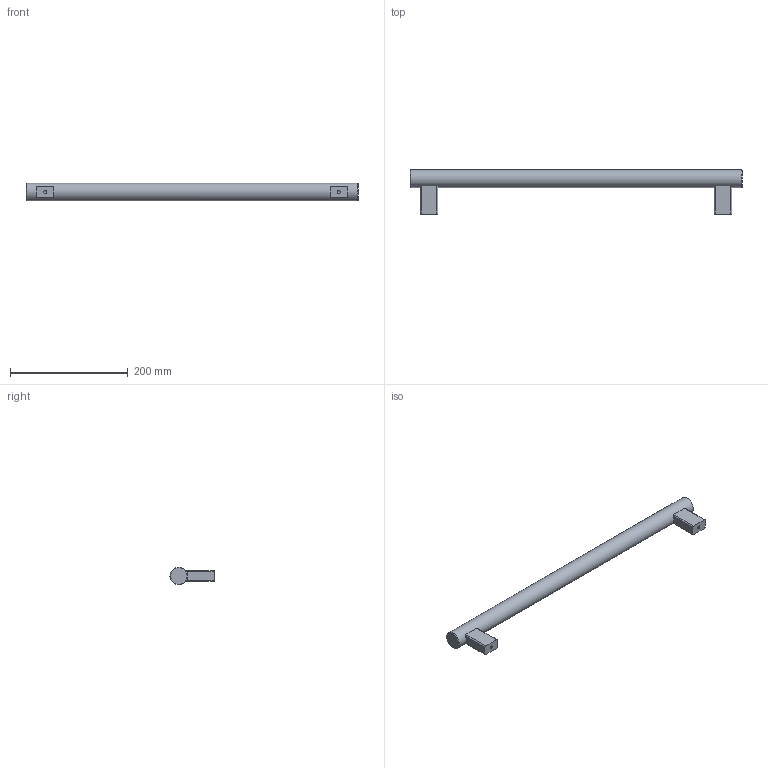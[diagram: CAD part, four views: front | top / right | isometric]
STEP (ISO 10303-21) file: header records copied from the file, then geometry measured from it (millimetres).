
FILE_DESCRIPTION( ( 'STEP AP203' ), '1' );
FILE_NAME( 'C:/Temp/Ganter_Step_05_03_2020/data/1_2/gn_666/Tubular handle GN 666-30-M6-500-ELG.stp', '2020-03-05T10:18:23', ( 'License CC BY-ND 4.0' ), ( 'CADENAS' ), ' ', 'PARTsolutions', ' ' );
FILE_SCHEMA( ( 'CONFIG_CONTROL_DESIGN' ) );
Length unit declared in the file: millimetre
Products named in the file (1): _Tubular handle GN 666-30-M6-500-ELG
Bounding box: 565 x 75 x 30 mm (x, y, z)
Volume: 448023.2 mm3; surface area: 63662.3 mm2
Topology: 1 solids, 1 shells, 27 faces, 65 edges, 42 vertices
Faces by surface type: plane 12, cylinder 11, cone 4
Full cylindrical faces by diameter (mm): 4.917 x2, 30 x1
Entity records: 882 total; most frequent: CARTESIAN_POINT 238, DIRECTION 124, ORIENTED_EDGE 112, EDGE_CURVE 56, AXIS2_PLACEMENT_3D 48, VERTEX_POINT 42, EDGE_LOOP 36, FACE_OUTER_BOUND 30
